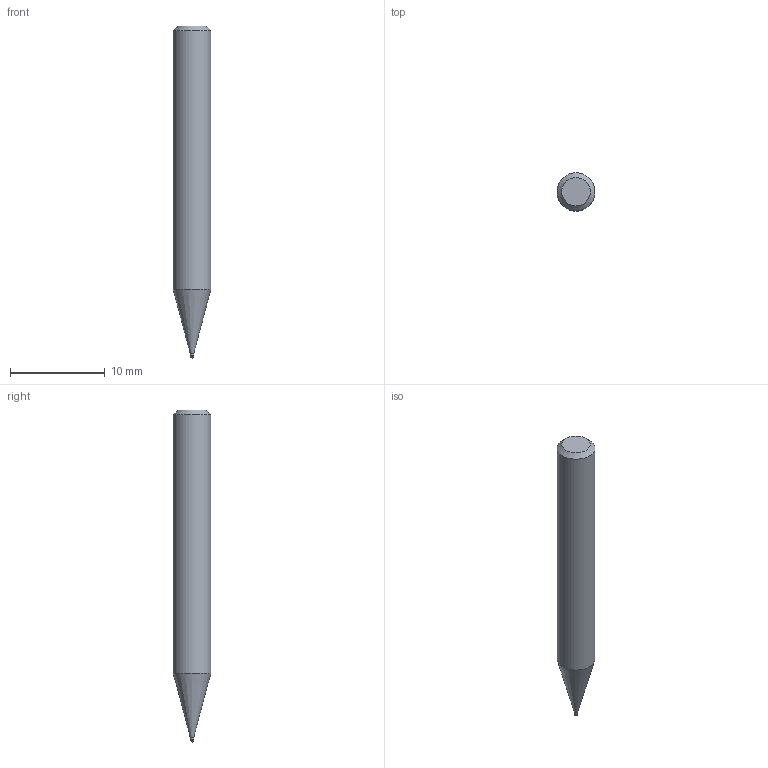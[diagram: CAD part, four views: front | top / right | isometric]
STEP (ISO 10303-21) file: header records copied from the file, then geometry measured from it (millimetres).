
FILE_DESCRIPTION((''),'2;1');
FILE_NAME('C:\Users\nsx150\AppData\Local\Temp\Mastercam 2021\QT8KEW0Y7J\TEMP.step','2021-04-23T11:20:29',(''),(''),'STEP Write','Mastercam 2021 ... CNC Software, Inc.','');
FILE_SCHEMA(('AUTOMOTIVE_DESIGN'));
Length unit declared in the file: millimetre
Products named in the file (1): None
Bounding box: 4 x 4 x 35 mm (x, y, z)
Volume: 378.3 mm3; surface area: 406 mm2
Topology: 2 solids, 2 shells, 9 faces, 14 edges, 8 vertices
Faces by surface type: plane 3, cylinder 3, cone 2, sphere 1
Full cylindrical faces by diameter (mm): 0.37 x1, 0.4 x1, 4 x1
Entity records: 211 total; most frequent: DIRECTION 36, CARTESIAN_POINT 25, AXIS2_PLACEMENT_3D 18, ORIENTED_EDGE 14, EDGE_LOOP 14, STYLED_ITEM 12, ADVANCED_FACE 9, FACE_BOUND 8
